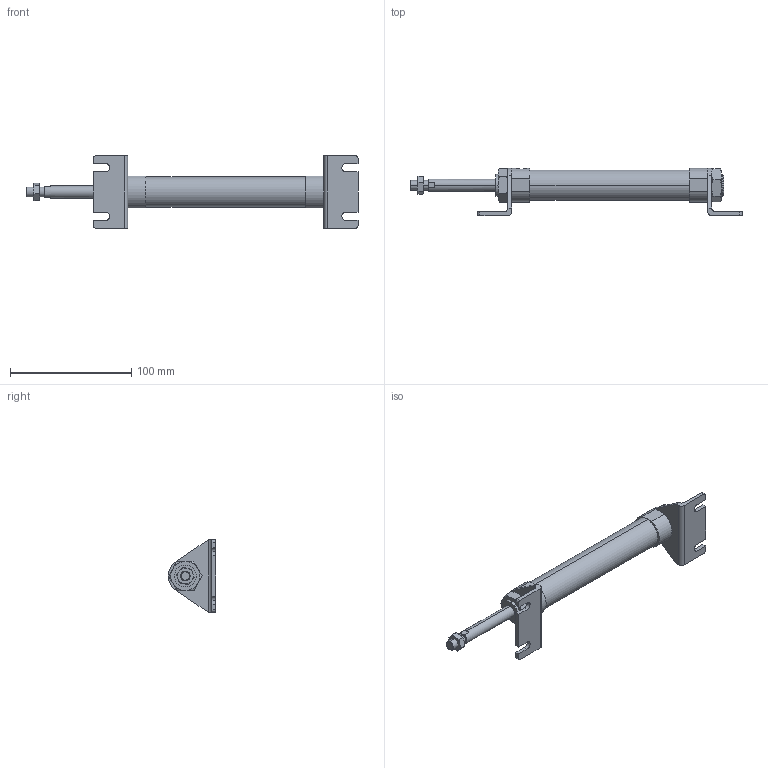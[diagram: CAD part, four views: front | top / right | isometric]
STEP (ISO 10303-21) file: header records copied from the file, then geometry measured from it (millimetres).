
FILE_DESCRIPTION (( 'STEP AP203' ), '1' );
FILE_NAME ('J#0-20-50-L.STEP', '2016-03-10T00:43:15', ( '' ), ( '' ), 'SwSTEP 2.0', 'SolidWorks 2014', '' );
FILE_SCHEMA (( 'CONFIG_CONTROL_DESIGN' ));
Length unit declared in the file: millimetre
Products named in the file (5): J#0-20-50; J#2-20-L; J#0-20-50-L
Assembly tree (6 placements, depth 2):
  J#0-20-50-L
    J#0-20-50
    (unnamed)
    (unnamed)  x2
    J#2-20-L  x2
Bounding box: 274.2 x 39 x 60 mm (x, y, z)
Volume: 115758.1 mm3; surface area: 34348.8 mm2
Topology: 6 solids, 6 shells, 165 faces, 386 edges, 242 vertices
Faces by surface type: plane 73, cylinder 50, torus 36, cone 6
Entity records: 4138 total; most frequent: CARTESIAN_POINT 946, DIRECTION 565, ORIENTED_EDGE 530, EDGE_CURVE 265, AXIS2_PLACEMENT_3D 229, VERTEX_POINT 166, EDGE_LOOP 131, FACE_OUTER_BOUND 116
